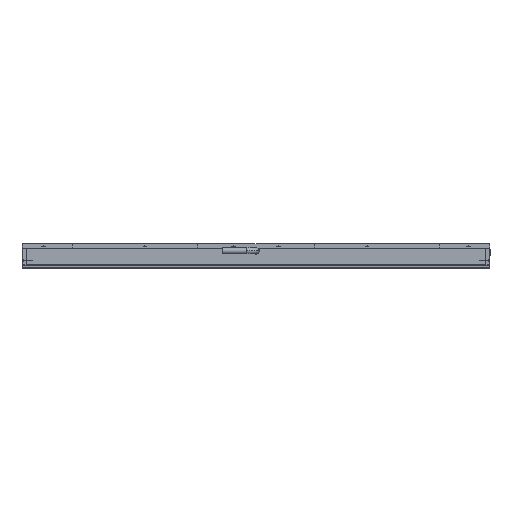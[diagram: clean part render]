
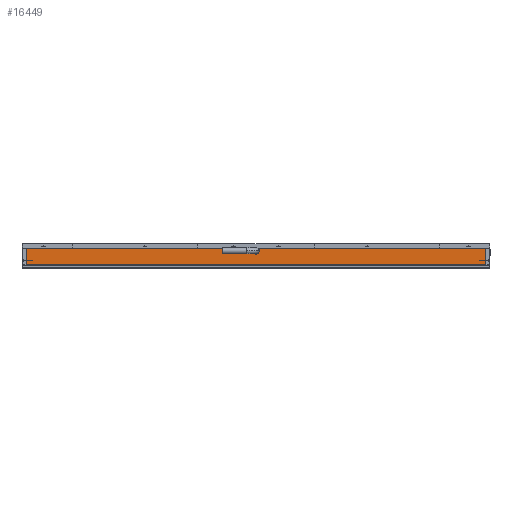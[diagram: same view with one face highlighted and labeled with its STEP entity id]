
A CAD part, top view. The second image highlights one B-rep face of the part: STEP entity #16449.
In plain terms, the highlighted planar face has unit normal (0, 0, 1).
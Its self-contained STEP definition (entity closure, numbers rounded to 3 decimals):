
#31 = DIRECTION ( 'NONE',  ( 0., 0., -1. ) ) ;
#73 = VECTOR ( 'NONE', #9248, 1000. ) ;
#404 = CARTESIAN_POINT ( 'NONE',  ( 194.58, 426.625, 212.807 ) ) ;
#545 = EDGE_CURVE ( 'NONE', #19736, #17538, #18430, .T. ) ;
#691 = CARTESIAN_POINT ( 'NONE',  ( -212.02, 441.125, 212.807 ) ) ;
#696 = ORIENTED_EDGE ( 'NONE', *, *, #15629, .T. ) ;
#1547 = LINE ( 'NONE', #21271, #10178 ) ;
#1607 = CARTESIAN_POINT ( 'NONE',  ( -212.02, 441.125, 212.807 ) ) ;
#2003 = CARTESIAN_POINT ( 'NONE',  ( -11.72, 441.125, 212.807 ) ) ;
#2138 = ORIENTED_EDGE ( 'NONE', *, *, #11052, .T. ) ;
#2172 = DIRECTION ( 'NONE',  ( 0., 1., 0. ) ) ;
#2441 = VERTEX_POINT ( 'NONE', #3055 ) ;
#2499 = CARTESIAN_POINT ( 'NONE',  ( -212.02, 441.125, 212.807 ) ) ;
#3055 = CARTESIAN_POINT ( 'NONE',  ( -5.72, 441.125, 212.807 ) ) ;
#3557 = VERTEX_POINT ( 'NONE', #10654 ) ;
#3793 = FACE_OUTER_BOUND ( 'NONE', #15279, .T. ) ;
#4165 = CARTESIAN_POINT ( 'NONE',  ( -11.72, 441.125, 212.807 ) ) ;
#4338 = DIRECTION ( 'NONE',  ( 1., 0., 0. ) ) ;
#4549 = ORIENTED_EDGE ( 'NONE', *, *, #7261, .F. ) ;
#4987 = DIRECTION ( 'NONE',  ( 1., 0., 0. ) ) ;
#5513 = VERTEX_POINT ( 'NONE', #12413 ) ;
#6790 = AXIS2_PLACEMENT_3D ( 'NONE', #19438, #31, #15803 ) ;
#7261 = EDGE_CURVE ( 'NONE', #2441, #21683, #7564, .T. ) ;
#7564 = LINE ( 'NONE', #1607, #8702 ) ;
#7685 = ORIENTED_EDGE ( 'NONE', *, *, #11222, .F. ) ;
#8254 = ORIENTED_EDGE ( 'NONE', *, *, #545, .T. ) ;
#8671 = CARTESIAN_POINT ( 'NONE',  ( -212.02, 426.625, 212.807 ) ) ;
#8702 = VECTOR ( 'NONE', #16136, 1000. ) ;
#9185 = CARTESIAN_POINT ( 'NONE',  ( -5.72, 441.125, 212.807 ) ) ;
#9248 = DIRECTION ( 'NONE',  ( 0., 1., 0. ) ) ;
#10178 = VECTOR ( 'NONE', #14091, 1000. ) ;
#10654 = CARTESIAN_POINT ( 'NONE',  ( -11.72, 438.925, 212.807 ) ) ;
#10826 = VECTOR ( 'NONE', #4987, 1000. ) ;
#10953 = VECTOR ( 'NONE', #14882, 1000. ) ;
#11052 = EDGE_CURVE ( 'NONE', #17538, #21683, #18875, .T. ) ;
#11172 = VERTEX_POINT ( 'NONE', #691 ) ;
#11222 = EDGE_CURVE ( 'NONE', #11172, #22558, #21659, .T. ) ;
#11388 = ORIENTED_EDGE ( 'NONE', *, *, #19439, .T. ) ;
#12413 = CARTESIAN_POINT ( 'NONE',  ( -5.72, 438.925, 212.807 ) ) ;
#13544 = DIRECTION ( 'NONE',  ( 1., 0., 0. ) ) ;
#14091 = DIRECTION ( 'NONE',  ( 0., 1., 0. ) ) ;
#14651 = ORIENTED_EDGE ( 'NONE', *, *, #23196, .F. ) ;
#14882 = DIRECTION ( 'NONE',  ( 0., -1., 0. ) ) ;
#14977 = EDGE_CURVE ( 'NONE', #2441, #5513, #16847, .T. ) ;
#15279 = EDGE_LOOP ( 'NONE', ( #14651, #8254, #2138, #4549, #20065, #696, #11388, #7685 ) ) ;
#15511 = DIRECTION ( 'NONE',  ( 0., 0., -1. ) ) ;
#15629 = EDGE_CURVE ( 'NONE', #5513, #3557, #18185, .T. ) ;
#15771 = VECTOR ( 'NONE', #2172, 1000. ) ;
#15803 = DIRECTION ( 'NONE',  ( 1., 0., 0. ) ) ;
#16136 = DIRECTION ( 'NONE',  ( 1., 0., 0. ) ) ;
#16414 = CARTESIAN_POINT ( 'NONE',  ( 194.58, 441.125, 212.807 ) ) ;
#16449 = ADVANCED_FACE ( 'NONE', ( #3793 ), #18927, .F. ) ;
#16847 = LINE ( 'NONE', #9185, #10953 ) ;
#17131 = LINE ( 'NONE', #2003, #73 ) ;
#17538 = VERTEX_POINT ( 'NONE', #404 ) ;
#18185 = CIRCLE ( 'NONE', #6790, 3. ) ;
#18430 = LINE ( 'NONE', #8671, #10826 ) ;
#18875 = LINE ( 'NONE', #16414, #15771 ) ;
#18927 = PLANE ( 'NONE',  #20846 ) ;
#19146 = VECTOR ( 'NONE', #4338, 1000. ) ;
#19438 = CARTESIAN_POINT ( 'NONE',  ( -8.72, 438.925, 212.807 ) ) ;
#19439 = EDGE_CURVE ( 'NONE', #3557, #22558, #17131, .T. ) ;
#19736 = VERTEX_POINT ( 'NONE', #20643 ) ;
#19900 = CARTESIAN_POINT ( 'NONE',  ( 194.58, 441.125, 212.807 ) ) ;
#20065 = ORIENTED_EDGE ( 'NONE', *, *, #14977, .T. ) ;
#20643 = CARTESIAN_POINT ( 'NONE',  ( -212.02, 426.625, 212.807 ) ) ;
#20846 = AXIS2_PLACEMENT_3D ( 'NONE', #22591, #15511, #13544 ) ;
#21271 = CARTESIAN_POINT ( 'NONE',  ( -212.02, 441.125, 212.807 ) ) ;
#21659 = LINE ( 'NONE', #2499, #19146 ) ;
#21683 = VERTEX_POINT ( 'NONE', #19900 ) ;
#22558 = VERTEX_POINT ( 'NONE', #4165 ) ;
#22591 = CARTESIAN_POINT ( 'NONE',  ( -212.02, 441.125, 212.807 ) ) ;
#23196 = EDGE_CURVE ( 'NONE', #19736, #11172, #1547, .T. ) ;
